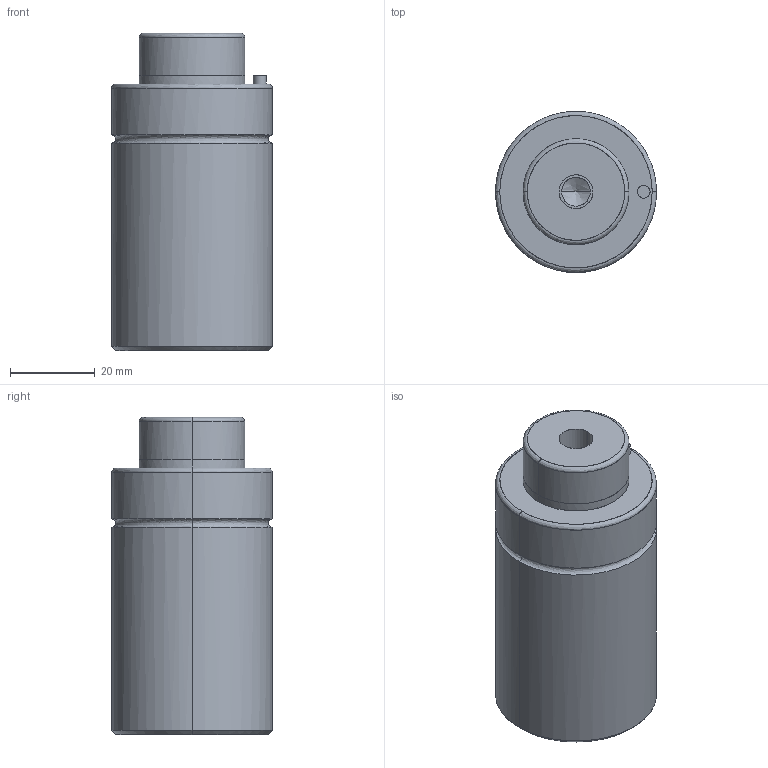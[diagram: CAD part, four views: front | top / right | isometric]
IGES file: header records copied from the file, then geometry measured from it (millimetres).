
Global section: file name: E:\UnigraphicsGraphicData\MISUMI_PRESS-PARTS\IGES\3d_gsm38-10_03936_r00.igs; native system: NX V5.0; preprocessor: UGS NX IGES V5.0; author: MISUMI; date: 20110105.160811; units: millimetre
Bounding box: 38 x 37.92 x 75 mm (x, y, z)
Surface area: 11709 mm2 (no closed solid volume)
Topology: 0 solids, 0 shells, 50 faces, 328 edges, 320 vertices
Faces by surface type: bspline 50
